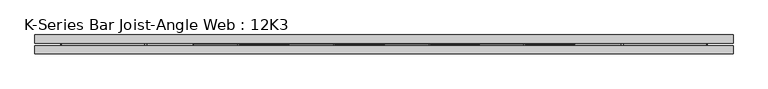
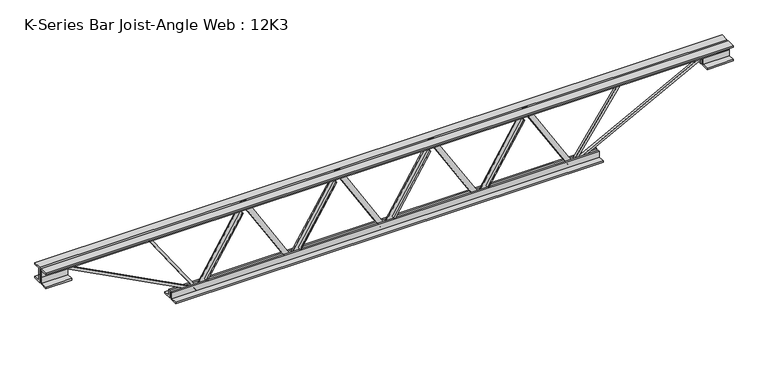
"""IFC4 building model written with IfcOpenShell, lengths in millimetres: beam geometry, K-Series Bar Joist-Angle Web : 12K3."""

from ifc_helpers import new_model, si_unit, frame, origin, place, context, project, spatial, polyline, outline, extrude, faceted_brep, source, transform, mapped, element, save


def k_series_bar_joist_angle_web_12k3_50cdc32d(model_context):
    return source(origin(), model_context, "Body", "SolidModel", [
        extrude(outline(polyline([(-4.7625, 4.7625), (-4.7625, 0.0), (-17.4625, 0.0), (-17.4625, 4.7625), (-4.7625, 4.7625)])), frame((333.6870799, 0.0, -114.3), z_axis=(-0.5212538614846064, 0.0, 0.8534016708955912), x_axis=(0.0, -1.0, 0.0)), (0.0, 0.0, 1.0), 267.8691732),
        extrude(outline(polyline([(-149.225, 366.7125), (-130.175, 366.7125), (-130.175, 365.7058888), (149.225, 195.0496388), (149.225, 177.00625), (130.175, 177.00625), (130.175, 184.3628612), (-149.225, 355.0191112), (-149.225, 366.7125)])), frame((0.0, 0.0, 0.0), z_axis=(0.0, 1.0, 0.0), x_axis=(0.0, 0.0, 1.0)), (0.0, 0.0, 1.0), 4.7625),
        faceted_brep([(0.0, 0.0, -130.175), (0.0, 0.0, -149.225), (0.0, -4.7625, -149.225), (0.0, -4.7625, -130.175), (1.0066112, 0.0, -130.175), (171.6628612, 0.0, 149.225), (189.70625, 0.0, 149.225), (189.70625, 0.0, 130.175), (182.3496388, 0.0, 130.175), (11.6933888, 0.0, -149.225), (11.6933888, -4.7625, -149.225), (33.0254201, -4.7625, -114.3), (28.9610946, -4.7625, -111.8175285), (168.5889355, -4.7625, 116.7824715), (172.653261, -4.7625, 114.3), (182.3496388, -4.7625, 130.175), (189.70625, -4.7625, 130.175), (189.70625, -4.7625, 149.225), (171.6628612, -4.7625, 149.225), (1.0066112, -4.7625, -130.175), (172.653261, -17.4625, 114.3), (33.0254201, -17.4625, -114.3), (28.9610946, -17.4625, -111.8175285), (168.5889355, -17.4625, 116.7824715)], [[[0, 1, 2, 3]], [[1, 0, 4, 5, 6, 7, 8, 9]], [[2, 1, 9, 10]], [[3, 2, 10, 11, 12, 13, 14, 15, 16, 17, 18, 19]], [[0, 3, 19, 4]], [[9, 8, 15, 14, 20, 21, 11, 10]], [[5, 4, 19, 18]], [[7, 6, 17, 16]], [[8, 7, 16, 15]], [[6, 5, 18, 17]], [[21, 22, 12, 11]], [[20, 14, 13, 23]], [[22, 21, 20, 23]], [[12, 22, 23, 13]]]),
        extrude(outline(polyline([(-4.7625, 4.7625), (-4.7625, 0.0), (-17.4625, 0.0), (-17.4625, 4.7625), (-4.7625, 4.7625)])), frame((-33.0254201, 0.0, -114.3), z_axis=(-0.5212538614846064, 0.0, 0.8534016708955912), x_axis=(0.0, -1.0, 0.0)), (0.0, 0.0, 1.0), 267.8691732),
        extrude(outline(polyline([(-149.225, 0.0), (-130.175, 0.0), (-130.175, -1.0066112), (149.225, -171.6628612), (149.225, -189.70625), (130.175, -189.70625), (130.175, -182.3496388), (-149.225, -11.6933888), (-149.225, 0.0)])), frame((0.0, 0.0, 0.0), z_axis=(0.0, 1.0, 0.0), x_axis=(0.0, 0.0, 1.0)), (0.0, 0.0, 1.0), 4.7625),
        faceted_brep([(-366.7125, 0.0, -130.175), (-366.7125, 0.0, -149.225), (-366.7125, -4.7625, -149.225), (-366.7125, -4.7625, -130.175), (-365.7058888, 0.0, -130.175), (-195.0496388, 0.0, 149.225), (-177.00625, 0.0, 149.225), (-177.00625, 0.0, 130.175), (-184.3628612, 0.0, 130.175), (-355.0191112, 0.0, -149.225), (-355.0191112, -4.7625, -149.225), (-333.6870799, -4.7625, -114.3), (-337.7514054, -4.7625, -111.8175285), (-198.1235645, -4.7625, 116.7824715), (-194.059239, -4.7625, 114.3), (-184.3628612, -4.7625, 130.175), (-177.00625, -4.7625, 130.175), (-177.00625, -4.7625, 149.225), (-195.0496388, -4.7625, 149.225), (-365.7058888, -4.7625, -130.175), (-194.059239, -17.4625, 114.3), (-333.6870799, -17.4625, -114.3), (-337.7514054, -17.4625, -111.8175285), (-198.1235645, -17.4625, 116.7824715)], [[[0, 1, 2, 3]], [[1, 0, 4, 5, 6, 7, 8, 9]], [[2, 1, 9, 10]], [[3, 2, 10, 11, 12, 13, 14, 15, 16, 17, 18, 19]], [[0, 3, 19, 4]], [[9, 8, 15, 14, 20, 21, 11, 10]], [[5, 4, 19, 18]], [[7, 6, 17, 16]], [[8, 7, 16, 15]], [[6, 5, 18, 17]], [[21, 22, 12, 11]], [[20, 14, 13, 23]], [[22, 21, 20, 23]], [[12, 22, 23, 13]]]),
        extrude(outline(polyline([(-4.7625, 4.7625), (-4.7625, 0.0), (-17.4625, 0.0), (-17.4625, 4.7625), (-4.7625, 4.7625)])), frame((700.3995799, 0.0, -114.3), z_axis=(-0.5212538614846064, 0.0, 0.8534016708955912), x_axis=(0.0, -1.0, 0.0)), (0.0, 0.0, 1.0), 267.8691732),
        extrude(outline(polyline([(-149.225, 733.425), (-130.175, 733.425), (-130.175, 732.4183888), (149.225, 561.7621388), (149.225, 543.71875), (130.175, 543.71875), (130.175, 551.0753612), (-149.225, 721.7316112), (-149.225, 733.425)])), frame((0.0, 0.0, 0.0), z_axis=(0.0, 1.0, 0.0), x_axis=(0.0, 0.0, 1.0)), (0.0, 0.0, 1.0), 4.7625),
        faceted_brep([(366.7125, 0.0, -130.175), (366.7125, 0.0, -149.225), (366.7125, -4.7625, -149.225), (366.7125, -4.7625, -130.175), (367.7191112, 0.0, -130.175), (538.3753612, 0.0, 149.225), (556.41875, 0.0, 149.225), (556.41875, 0.0, 130.175), (549.0621388, 0.0, 130.175), (378.4058888, 0.0, -149.225), (378.4058888, -4.7625, -149.225), (399.7379201, -4.7625, -114.3), (395.6735946, -4.7625, -111.8175285), (535.3014355, -4.7625, 116.7824715), (539.365761, -4.7625, 114.3), (549.0621388, -4.7625, 130.175), (556.41875, -4.7625, 130.175), (556.41875, -4.7625, 149.225), (538.3753612, -4.7625, 149.225), (367.7191112, -4.7625, -130.175), (539.365761, -17.4625, 114.3), (399.7379201, -17.4625, -114.3), (395.6735946, -17.4625, -111.8175285), (535.3014355, -17.4625, 116.7824715)], [[[0, 1, 2, 3]], [[1, 0, 4, 5, 6, 7, 8, 9]], [[2, 1, 9, 10]], [[3, 2, 10, 11, 12, 13, 14, 15, 16, 17, 18, 19]], [[0, 3, 19, 4]], [[9, 8, 15, 14, 20, 21, 11, 10]], [[5, 4, 19, 18]], [[7, 6, 17, 16]], [[8, 7, 16, 15]], [[6, 5, 18, 17]], [[21, 22, 12, 11]], [[20, 14, 13, 23]], [[22, 21, 20, 23]], [[12, 22, 23, 13]]]),
        extrude(outline(polyline([(-4.7625, 4.7625), (-4.7625, 0.0), (-17.4625, 0.0), (-17.4625, 4.7625), (-4.7625, 4.7625)])), frame((-399.7379201, 0.0, -114.3), z_axis=(-0.5212538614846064, 0.0, 0.8534016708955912), x_axis=(0.0, -1.0, 0.0)), (0.0, 0.0, 1.0), 267.8691732),
        extrude(outline(polyline([(-149.225, -366.7125), (-130.175, -366.7125), (-130.175, -367.7191112), (149.225, -538.3753612), (149.225, -556.41875), (130.175, -556.41875), (130.175, -549.0621388), (-149.225, -378.4058888), (-149.225, -366.7125)])), frame((0.0, 0.0, 0.0), z_axis=(0.0, 1.0, 0.0), x_axis=(0.0, 0.0, 1.0)), (0.0, 0.0, 1.0), 4.7625),
        faceted_brep([(-733.425, 0.0, -130.175), (-733.425, 0.0, -149.225), (-733.425, -4.7625, -149.225), (-733.425, -4.7625, -130.175), (-732.4183888, 0.0, -130.175), (-561.7621388, 0.0, 149.225), (-543.71875, 0.0, 149.225), (-543.71875, 0.0, 130.175), (-551.0753612, 0.0, 130.175), (-721.7316112, 0.0, -149.225), (-721.7316112, -4.7625, -149.225), (-700.3995799, -4.7625, -114.3), (-704.4639054, -4.7625, -111.8175285), (-564.8360645, -4.7625, 116.7824715), (-560.771739, -4.7625, 114.3), (-551.0753612, -4.7625, 130.175), (-543.71875, -4.7625, 130.175), (-543.71875, -4.7625, 149.225), (-561.7621388, -4.7625, 149.225), (-732.4183888, -4.7625, -130.175), (-560.771739, -17.4625, 114.3), (-700.3995799, -17.4625, -114.3), (-704.4639054, -17.4625, -111.8175285), (-564.8360645, -17.4625, 116.7824715)], [[[0, 1, 2, 3]], [[1, 0, 4, 5, 6, 7, 8, 9]], [[2, 1, 9, 10]], [[3, 2, 10, 11, 12, 13, 14, 15, 16, 17, 18, 19]], [[0, 3, 19, 4]], [[9, 8, 15, 14, 20, 21, 11, 10]], [[5, 4, 19, 18]], [[7, 6, 17, 16]], [[8, 7, 16, 15]], [[6, 5, 18, 17]], [[21, 22, 12, 11]], [[20, 14, 13, 23]], [[22, 21, 20, 23]], [[12, 22, 23, 13]]]),
        extrude(outline(polyline([(4.7625, 152.4), (36.5125, 152.4), (36.5125, 146.05), (11.1125, 146.05), (11.1125, 120.65), (4.7625, 120.65), (4.7625, 152.4)])), frame((-1343.025, 0.0, 0.0), z_axis=(1.0, 0.0, 0.0), x_axis=(0.0, 1.0, 0.0)), (0.0, 0.0, 1.0), 2686.05),
        extrude(outline(polyline([(-4.7625, 152.4), (-4.7625, 120.65), (-11.1125, 120.65), (-11.1125, 146.05), (-36.5125, 146.05), (-36.5125, 152.4), (-4.7625, 152.4)])), frame((-1343.025, 0.0, 0.0), z_axis=(1.0, 0.0, 0.0), x_axis=(0.0, 1.0, 0.0)), (0.0, 0.0, 1.0), 2686.05),
        extrude(outline(polyline([(-4.7625, 88.9), (-36.5125, 88.9), (-36.5125, 95.25), (-11.1125, 95.25), (-11.1125, 120.65), (-4.7625, 120.65), (-4.7625, 88.9)])), frame((-1343.025, 0.0, 0.0), z_axis=(1.0, 0.0, 0.0), x_axis=(0.0, 1.0, 0.0)), (0.0, 0.0, 1.0), 101.6),
        extrude(outline(polyline([(36.5125, 88.9), (4.7625, 88.9), (4.7625, 120.65), (11.1125, 120.65), (11.1125, 95.25), (36.5125, 95.25), (36.5125, 88.9)])), frame((-1343.025, 0.0, 0.0), z_axis=(1.0, 0.0, 0.0), x_axis=(0.0, 1.0, 0.0)), (0.0, 0.0, 1.0), 101.6),
        extrude(outline(polyline([(4.7625, 88.9), (4.7625, 120.65), (11.1125, 120.65), (11.1125, 95.25), (36.5125, 95.25), (36.5125, 88.9), (4.7625, 88.9)])), frame((1241.425, 0.0, 0.0), z_axis=(1.0, 0.0, 0.0), x_axis=(0.0, 1.0, 0.0)), (0.0, 0.0, 1.0), 101.6),
        extrude(outline(polyline([(-4.7625, 88.9), (-36.5125, 88.9), (-36.5125, 95.25), (-11.1125, 95.25), (-11.1125, 120.65), (-4.7625, 120.65), (-4.7625, 88.9)])), frame((1241.425, 0.0, 0.0), z_axis=(1.0, 0.0, 0.0), x_axis=(0.0, 1.0, 0.0)), (0.0, 0.0, 1.0), 101.6),
        extrude(outline(polyline([(4.7625, -152.4), (4.7625, -120.65), (11.1125, -120.65), (11.1125, -146.05), (36.5125, -146.05), (36.5125, -152.4), (4.7625, -152.4)])), frame((-835.025, 0.0, 0.0), z_axis=(1.0, 0.0, 0.0), x_axis=(0.0, 1.0, 0.0)), (0.0, 0.0, 1.0), 1670.05),
        extrude(outline(polyline([(-4.7625, -152.4), (-36.5125, -152.4), (-36.5125, -146.05), (-11.1125, -146.05), (-11.1125, -120.65), (-4.7625, -120.65), (-4.7625, -152.4)])), frame((-835.025, 0.0, 0.0), z_axis=(1.0, 0.0, 0.0), x_axis=(0.0, 1.0, 0.0)), (0.0, 0.0, 1.0), 1670.05),
        extrude(outline(polyline([(4.7625, 4.7625), (4.7625, -4.7625), (-4.7625, -4.7625), (-4.7625, 4.7625), (4.7625, 4.7625)])), frame((733.425, 0.0, -146.05), z_axis=(0.5665288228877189, 0.0, 0.8240419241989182), x_axis=(0.0, -1.0, 0.0)), (0.0, 0.0, 1.0), 323.6485817),
        extrude(outline(polyline([(4.7625, 4.7625), (4.7625, -4.7625), (-4.7625, -4.7625), (-4.7625, 4.7625), (4.7625, 4.7625)])), frame((-733.425, 0.0, -146.05), z_axis=(-0.5665288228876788, 0.0, 0.8240419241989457), x_axis=(0.0, -1.0, 0.0)), (0.0, 0.0, 1.0), 323.6485817),
        extrude(outline(polyline([(0.0, -9.525), (0.0, 0.0), (573.7533355, 0.0), (573.7533355, -9.525), (0.0, -9.525)])), frame((1243.6387714, -4.7625, 116.4332925), z_axis=(-0.46483389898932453, 0.0, 0.8853979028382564), x_axis=(-0.8853979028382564, 0.0, -0.46483389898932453)), (0.0, 0.0, 1.0), 9.525),
        extrude(outline(polyline([(0.0, -9.525), (0.0, 0.0), (573.7533355, 0.0), (573.7533355, -9.525), (0.0, -9.525)])), frame((-1243.6387714, 4.7625, 116.4332925), z_axis=(0.4648338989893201, 0.0, 0.8853979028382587), x_axis=(0.8853979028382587, 0.0, -0.4648338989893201)), (0.0, 0.0, 1.0), 9.525),
    ])


if __name__ == "__main__":
    model = new_model("IFC4")
    model_context = context("Model", 3, world=origin())
    ifc_project = project(units=[si_unit("LENGTHUNIT", "METRE", prefix="MILLI")], contexts=[model_context])
    site = spatial("IfcSite", under=ifc_project)
    building = spatial("IfcBuilding", under=site)
    placement = place(None, origin())
    k_series_bar_joist_angle_web_12k3_shape = k_series_bar_joist_angle_web_12k3_50cdc32d(model_context)
    element("IfcBeam", 1, ObjectType="K-Series Bar Joist-Angle Web : 12K3", at=placement, inside=building, context=model_context, shape_type="MappedRepresentation", body=[
        mapped(k_series_bar_joist_angle_web_12k3_shape, transform((0.0, 0.0, 0.0), x_axis=(1.0, 0.0, 0.0), y_axis=(0.0, 1.0, 0.0), z_axis=(0.0, 0.0, 1.0))),
    ])
    save(model, "model.ifc")
